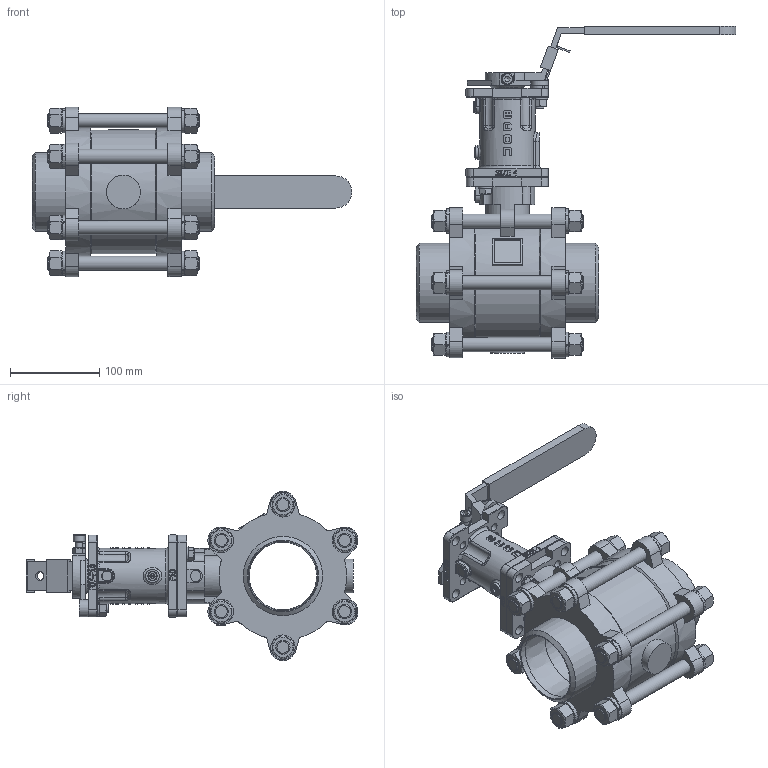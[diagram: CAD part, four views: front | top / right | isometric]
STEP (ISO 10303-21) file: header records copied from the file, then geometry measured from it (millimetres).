
FILE_DESCRIPTION(/* description */ ('Eriks item no: 14229948'),/* implementation_level */ '2;1');
FILE_NAME(/* name */ 'L:\DATA\ENG\Inventor\Econ 3D modellen\kogelkranen\7642 +7412\7642-DN80-FB + 7412-size4.stp',/* time_stamp */ '2024-01-22T16:07:29+01:00',/* author */ ('roger.thijssen'),/* organization */ (''),/* preprocessor_version */ 'ST-DEVELOPER v18',/* originating_system */ 'Autodesk Inventor 2020',/* authorisation */ '');
FILE_SCHEMA (('CONFIG_CONTROL_DESIGN'));
Length unit declared in the file: millimetre
Products named in the file (1): Ball valve + stem ext., 7642-DN80-FB + 7412-size4
Bounding box: 359 x 372.62 x 189.89 mm (x, y, z)
Volume: 2596925.4 mm3; surface area: 375472.8 mm2
Topology: 2 solids, 2 shells, 1339 faces, 3646 edges, 2376 vertices
Faces by surface type: plane 781, cylinder 290, bspline 144, cone 85, torus 36, sphere 3
Full cylindrical faces by diameter (mm): 5 x1, 6.25 x1, 6.647 x1, 8 x2, 8.4 x1, 8.6 x1, 9 x8, 10 x4, 11 x13, 12 x2, 13 x1, 15 x1, 16 x19, 17 x14, 19.2 x1, 21.225 x1, 22.225 x1, 25 x1, 33.5 x1, 38 x1, 47 x1, 55 x2, 62 x1, 76 x1, 77.9 x2, 88.9 x2, 139 x1, 143 x2
Entity records: 46903 total; most frequent: CARTESIAN_POINT 12427, ORIENTED_EDGE 7288, DIRECTION 6413, EDGE_CURVE 3644, VERTEX_POINT 2376, AXIS2_PLACEMENT_3D 2186, LINE 2041, VECTOR 2041
